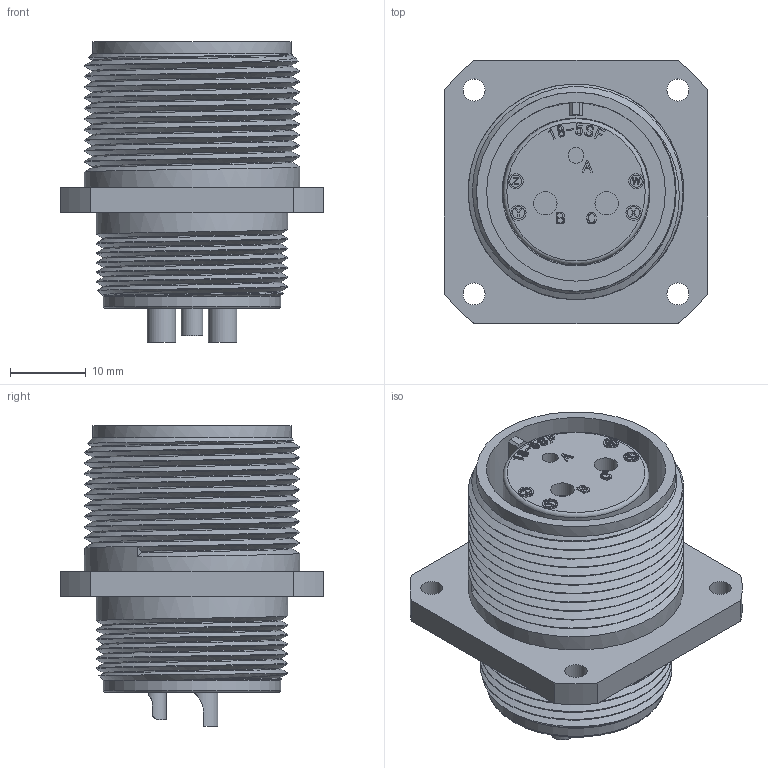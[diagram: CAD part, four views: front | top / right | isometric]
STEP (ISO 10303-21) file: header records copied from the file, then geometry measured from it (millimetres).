
FILE_DESCRIPTION (( 'STEP AP203' ), '1' );
FILE_NAME ('DMS3100A18-5S(D263).STEP', '2022-01-28T01:04:02', ( '' ), ( '' ), 'SwSTEP 2.0', 'SolidWorks 2018', '' );
FILE_SCHEMA (( 'CONFIG_CONTROL_DESIGN' ));
Length unit declared in the file: millimetre
Products named in the file (1): DMS3100A18-5S(D263)
Bounding box: 34.92 x 34.92 x 39.78 mm (x, y, z)
Volume: 16929 mm3; surface area: 10618.8 mm2
Topology: 1 solids, 1 shells, 557 faces, 1483 edges, 987 vertices
Faces by surface type: plane 254, bspline 234, cylinder 65, cone 2, torus 2
Full cylindrical faces by diameter (mm): 1.6 x4, 2 x4, 2.11 x1, 2.85 x2, 2.93 x4, 3.1 x2, 3.79 x2, 3.9 x2, 17.45 x1, 19.33 x1, 19.59 x1, 21.08 x1, 23.5 x1, 23.68 x1, 25.36 x6, 26.35 x1, 28.53 x10
Entity records: 25230 total; most frequent: CARTESIAN_POINT 13467, ORIENTED_EDGE 2782, DIRECTION 1612, EDGE_CURVE 1391, VERTEX_POINT 945, VECTOR 810, LINE 810, EDGE_LOOP 642
